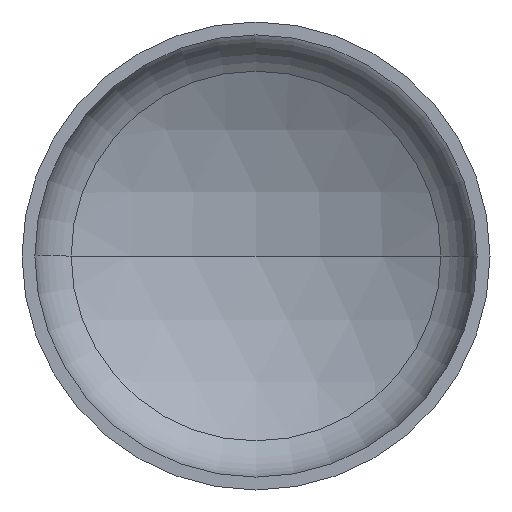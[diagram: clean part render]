
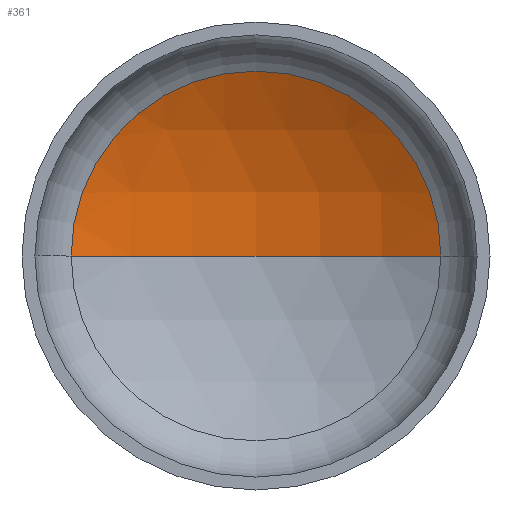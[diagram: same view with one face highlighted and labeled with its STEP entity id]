
A CAD part, front view. The second image highlights one B-rep face of the part: STEP entity #361.
In plain terms, the highlighted spherical face has radius 2560 mm.
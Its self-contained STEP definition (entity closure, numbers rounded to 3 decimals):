
#5 = DIRECTION ( 'NONE',  ( 0., 0., 1. ) ) ;
#21 = CARTESIAN_POINT ( 'NONE',  ( 0., 526.114, 0. ) ) ;
#27 = AXIS2_PLACEMENT_3D ( 'NONE', #99, #5, #155 ) ;
#30 = AXIS2_PLACEMENT_3D ( 'NONE', #149, #108, #129 ) ;
#32 = AXIS2_PLACEMENT_3D ( 'NONE', #21, #170, #75 ) ;
#33 = CARTESIAN_POINT ( 'NONE',  ( -1263.923, 526.114, 0. ) ) ;
#68 = EDGE_CURVE ( 'NONE', #360, #88, #193, .T. ) ;
#70 = EDGE_CURVE ( 'NONE', #142, #360, #87, .T. ) ;
#74 = EDGE_CURVE ( 'NONE', #142, #88, #376, .T. ) ;
#75 = DIRECTION ( 'NONE',  ( 1., 0., 0. ) ) ;
#87 = CIRCLE ( 'NONE', #30, 2560. ) ;
#88 = VERTEX_POINT ( 'NONE', #33 ) ;
#99 = CARTESIAN_POINT ( 'NONE',  ( 0., -1700.116, 0. ) ) ;
#108 = DIRECTION ( 'NONE',  ( 0., 0., -1. ) ) ;
#129 = DIRECTION ( 'NONE',  ( -1., 0., 0. ) ) ;
#142 = VERTEX_POINT ( 'NONE', #214 ) ;
#149 = CARTESIAN_POINT ( 'NONE',  ( 0., -1700.116, 0. ) ) ;
#155 = DIRECTION ( 'NONE',  ( 1., 0., 0. ) ) ;
#161 = CARTESIAN_POINT ( 'NONE',  ( 1263.923, 526.114, 0. ) ) ;
#165 = EDGE_LOOP ( 'NONE', ( #354, #216, #242 ) ) ;
#170 = DIRECTION ( 'NONE',  ( 0., -1., 0. ) ) ;
#193 = CIRCLE ( 'NONE', #32, 1263.923 ) ;
#211 = FACE_OUTER_BOUND ( 'NONE', #165, .T. ) ;
#214 = CARTESIAN_POINT ( 'NONE',  ( 0., 859.884, 0. ) ) ;
#216 = ORIENTED_EDGE ( 'NONE', *, *, #70, .T. ) ;
#229 = CARTESIAN_POINT ( 'NONE',  ( 0., -1700.116, 0. ) ) ;
#242 = ORIENTED_EDGE ( 'NONE', *, *, #68, .T. ) ;
#251 = AXIS2_PLACEMENT_3D ( 'NONE', #229, #252, #407 ) ;
#252 = DIRECTION ( 'NONE',  ( 0., 0., -1. ) ) ;
#354 = ORIENTED_EDGE ( 'NONE', *, *, #74, .F. ) ;
#360 = VERTEX_POINT ( 'NONE', #161 ) ;
#361 = ADVANCED_FACE ( 'NONE', ( #211 ), #392, .F. ) ;
#376 = CIRCLE ( 'NONE', #27, 2560. ) ;
#392 = SPHERICAL_SURFACE ( 'NONE', #251, 2560. ) ;
#407 = DIRECTION ( 'NONE',  ( -1., 0., 0. ) ) ;
